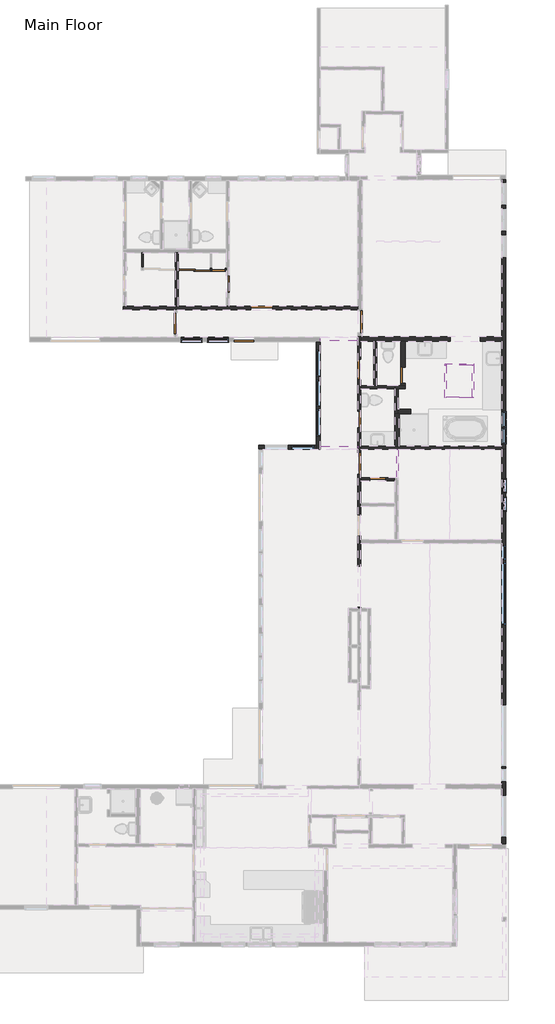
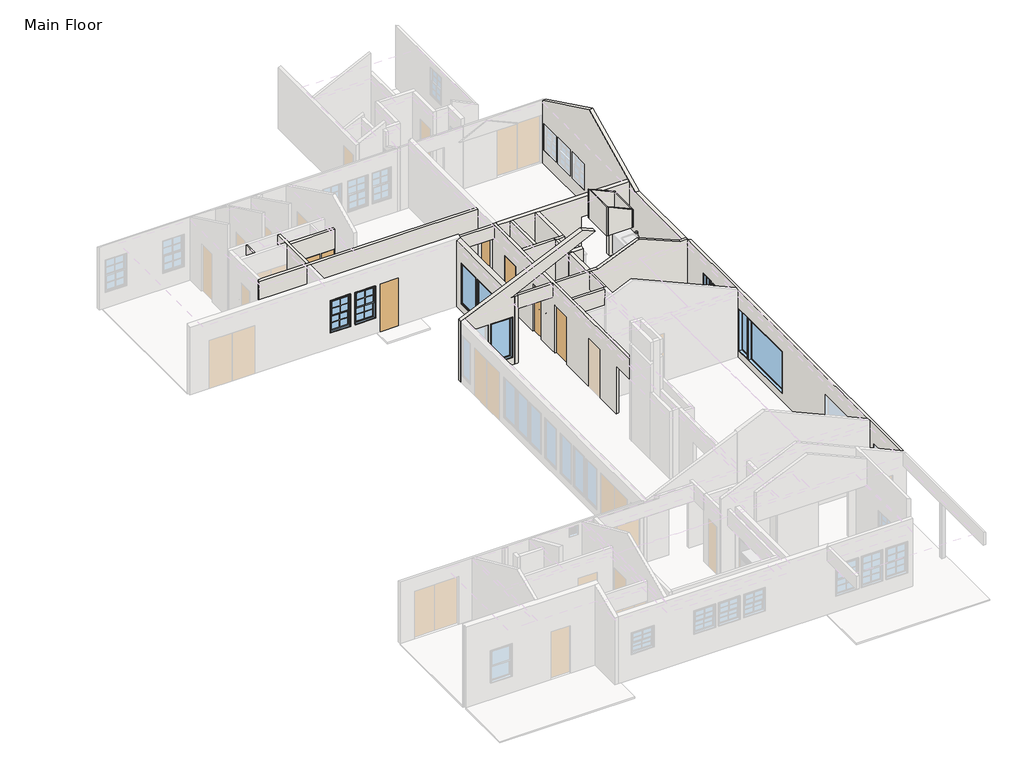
# One storey, part 4 of 7: 28 walls, 12 doors, 12 windows.
"""IFC4 building model written with IfcOpenShell, lengths in millimetres."""

from ifc_helpers import new_model, si_unit, frame, origin, origin_with_axes, place, context, project, spatial, polyline, outline, extrude, faceted_brep, transform, mapped, element, save
from components import door_46b09886, door_b2eef15f, door_38152ee4, door_aef79686, door_c73edc89, door_f61abd0f, door_662d1a84, door_2963ea5e, door_ba797397, door_69ba4edc, default_1_0ffe8a1d, default_1_ade855ad, default_1_3f986f1e, default_1_9119c667, default_1_657b135e, default_1_ac424815, default_1_07854831, default_1_82db3804

model = new_model("IFC4")

# Units and contexts
model_context = context("Model", 3, world=origin())
ifc_project = project(units=[si_unit("LENGTHUNIT", "METRE", prefix="MILLI")], contexts=[model_context])

# Site, building, storey
site = spatial("IfcSite", under=ifc_project)
building = spatial("IfcBuilding", under=site)
storey = spatial("IfcBuildingStorey", under=building, Name="Main Floor", Elevation=0.0)

# Doors
placement = place(None, origin())
door_shape = door_46b09886(model_context)
element("IfcDoor", 1, ObjectType="Planitar - Single Door_Flush Panel : 2'-8\" x 6'-8\" @45", at=placement, inside=storey, context=model_context, shape_type="MappedRepresentation", body=[
    mapped(door_shape, transform((10994.8343008, 8654.7889932, 0.0), x_axis=(0.0, -1.0, 0.0), y_axis=(1.0, 0.0, 0.0), z_axis=(0.0, 0.0, 1.0))),
])
door_2_shape = door_b2eef15f(model_context)
element("IfcDoor", 2, ObjectType="Planitar - Single Door_Flush Panel : 2'-0\" x 6'-8\" @45", at=placement, inside=storey, context=model_context, shape_type="MappedRepresentation", body=[
    mapped(door_2_shape, transform((11686.8663008, 8070.2752932, 0.0), x_axis=(-1.0, 0.0, 0.0), y_axis=(0.0, -1.0, 0.0), z_axis=(0.0, 0.0, 1.0))),
])
door_3_shape = door_38152ee4(model_context)
element("IfcDoor", 3, ObjectType="Planitar - Single Door_Flush Panel : 1'-8\" x 6'-8\"", at=placement, inside=storey, context=model_context, shape_type="MappedRepresentation", body=[
    mapped(door_3_shape, transform((5749.7343008, 15887.1252932, 0.0), x_axis=(1.0, 0.0, 0.0), y_axis=(0.0, 1.0, 0.0), z_axis=(0.0, 0.0, 1.0))),
])
door_4_shape = door_aef79686(model_context)
element("IfcDoor", 4, ObjectType="Planitar - Single Door_Flush Panel : 2'-0\" x 6'-8\"", at=placement, inside=storey, context=model_context, shape_type="MappedRepresentation", body=[
    mapped(door_4_shape, transform((6092.6343008, 15349.5738932, 0.0), x_axis=(0.0, -1.0, 0.0), y_axis=(1.0, 0.0, 0.0), z_axis=(0.0, 0.0, 1.0))),
])
door_5_shape = door_c73edc89(model_context)
element("IfcDoor", 5, ObjectType="Planitar - Single Door_Flush Panel : 2'-0\" x 6'-8\"", at=placement, inside=storey, context=model_context, shape_type="MappedRepresentation", body=[
    mapped(door_5_shape, transform((12626.7843008, 11950.0399932, 0.0), x_axis=(0.0, -1.0, 0.0), y_axis=(1.0, 0.0, 0.0), z_axis=(0.0, 0.0, 1.0))),
])
element("IfcDoor", 6, ObjectType="Planitar - Single Door_Flush Panel : 2'-0\" x 6'-8\"", at=placement, inside=storey, context=model_context, shape_type="MappedRepresentation", body=[
    mapped(door_2_shape, transform((10994.8343008, 10301.2498932, 0.0), x_axis=(0.0, 1.0, 0.0), y_axis=(-1.0, 0.0, 0.0), z_axis=(0.0, 0.0, 1.0))),
])
door_6_shape = door_f61abd0f(model_context)
element("IfcDoor", 7, ObjectType="Planitar - Single Door_Flush Panel : 2'-6\" x 6'-8\"", at=placement, inside=storey, context=model_context, shape_type="MappedRepresentation", body=[
    mapped(door_6_shape, transform((10994.8343008, 12161.0671932, 0.0), x_axis=(0.0, -1.0, 0.0), y_axis=(1.0, 0.0, 0.0), z_axis=(0.0, 0.0, 1.0))),
])
door_7_shape = door_662d1a84(model_context)
element("IfcDoor", 8, ObjectType="Planitar - Single Door_Flush Panel : 2'-6\" x 6'-8\"", at=placement, inside=storey, context=model_context, shape_type="MappedRepresentation", body=[
    mapped(door_7_shape, transform((6701.4028008, 13283.6252932, 0.0), x_axis=(1.0, 0.0, 0.0), y_axis=(0.0, 1.0, 0.0), z_axis=(0.0, 0.0, 1.0))),
])
door_8_shape = door_2963ea5e(model_context)
element("IfcDoor", 9, ObjectType="Planitar - Single Door_Flush Panel : 2'-8\" x 6'-8\"", at=placement, inside=storey, context=model_context, shape_type="MappedRepresentation", body=[
    mapped(door_8_shape, transform((11020.2343008, 13947.3496932, 0.0), x_axis=(0.0, -1.0, 0.0), y_axis=(1.0, 0.0, 0.0), z_axis=(0.0, 0.0, 1.0))),
])
door_9_shape = door_ba797397(model_context)
element("IfcDoor", 10, ObjectType="Planitar - Single Door_Flush Panel : 2'-8\" x 6'-8\"", at=placement, inside=storey, context=model_context, shape_type="MappedRepresentation", body=[
    mapped(door_9_shape, transform((7352.0824008, 14458.3752932, 0.0), x_axis=(-1.0, 0.0, 0.0), y_axis=(0.0, -1.0, 0.0), z_axis=(0.0, 0.0, 1.0))),
])
element("IfcDoor", 11, ObjectType="Planitar - Single Door_Flush Panel : 2'-8\" x 6'-8\"", at=placement, inside=storey, context=model_context, shape_type="MappedRepresentation", body=[
    mapped(door_shape, transform((4155.8843008, 13880.5110932, 0.0), x_axis=(0.0, 1.0, 0.0), y_axis=(-1.0, 0.0, 0.0), z_axis=(0.0, 0.0, 1.0))),
])
door_10_shape = door_69ba4edc(model_context)
element("IfcDoor", 12, ObjectType="Planitar - Double Sliding Door_Flush Panel : 3'-10\" x 6'-8\"", at=placement, inside=storey, context=model_context, shape_type="MappedRepresentation", body=[
    mapped(door_10_shape, transform((4848.0343008, 15883.9502932, 0.0), x_axis=(-1.0, 0.0, 0.0), y_axis=(0.0, -1.0, 0.0), z_axis=(0.0, 0.0, 1.0))),
])

# Walls
element("IfcWall", 13, ObjectType="Planitar - Generic 6\"", at=placement, inside=storey, context=model_context, shape_type="Brep", body=[
    faceted_brep([(16468.5343008, -5556.8247068, 2797.5063387), (16468.5343008, -5556.8247068, 0.0), (16468.5343008, 9187.8752932, 0.0), (16468.5343008, 9187.8752932, 2797.5063387), (16468.5343008, -3740.8519068, 558.8), (16468.5343008, -5264.8519068, 558.8), (16468.5343008, -5264.8519068, 2032.0), (16468.5343008, -3740.8519068, 2032.0), (16468.5343008, -2737.4247068, 304.8), (16468.5343008, -3194.6247068, 304.8), (16468.5343008, -3194.6247068, 2082.8), (16468.5343008, -2737.4247068, 2082.8), (16468.5343008, -353.5097068, 304.8), (16468.5343008, -2639.5097068, 304.8), (16468.5343008, -2639.5097068, 2082.8), (16468.5343008, -353.5097068, 2082.8), (16468.5343008, 4965.8078932, 304.8), (16468.5343008, 2629.0078932, 304.8), (16468.5343008, 2629.0078932, 2082.8), (16468.5343008, 4965.8078932, 2082.8), (16468.5343008, 5613.5900932, 304.8), (16468.5343008, 5054.7900932, 304.8), (16468.5343008, 5054.7900932, 2082.8), (16468.5343008, 5613.5900932, 2082.8), (16468.5343008, 7423.5477932, 2082.8), (16468.5343008, 7423.5477932, 457.2), (16468.5343008, 6864.7477932, 457.2), (16468.5343008, 6864.7477932, 2082.8), (16468.5343008, 8104.9558932, 2082.8), (16468.5343008, 8104.9558932, 457.2), (16468.5343008, 7546.1558932, 457.2), (16468.5343008, 7546.1558932, 2082.8), (16316.1343008, -5556.8247068, 0.0), (16316.1343008, -5556.8247068, 2865.3591904), (16316.1343008, -3480.3747068, 2865.3591904), (16316.1343008, -3315.2747068, 2865.3591904), (16316.1343008, 5689.0252932, 2865.3591904), (16316.1343008, 5803.3252932, 2865.3591904), (16316.1343008, 9187.8752932, 2865.3591904), (16316.1343008, 9187.8752932, 0.0), (16316.1343008, 5803.3252932, 0.0), (16316.1343008, 5689.0252932, 0.0), (16316.1343008, -3315.2747068, 0.0), (16316.1343008, -3480.3747068, 0.0), (16316.1343008, -3740.8519068, 558.8), (16316.1343008, -3740.8519068, 2032.0), (16316.1343008, -5264.8519068, 2032.0), (16316.1343008, -5264.8519068, 558.8), (16316.1343008, -2737.4247068, 304.8), (16316.1343008, -2737.4247068, 2082.8), (16316.1343008, -3194.6247068, 2082.8), (16316.1343008, -3194.6247068, 304.8), (16316.1343008, -353.5097068, 304.8), (16316.1343008, -353.5097068, 2082.8), (16316.1343008, -2639.5097068, 2082.8), (16316.1343008, -2639.5097068, 304.8), (16316.1343008, 4965.8078932, 304.8), (16316.1343008, 4965.8078932, 2082.8), (16316.1343008, 2629.0078932, 2082.8), (16316.1343008, 2629.0078932, 304.8), (16316.1343008, 5613.5900932, 304.8), (16316.1343008, 5613.5900932, 2082.8), (16316.1343008, 5054.7900932, 2082.8), (16316.1343008, 5054.7900932, 304.8), (16316.1343008, 7423.5477932, 2082.8), (16316.1343008, 6864.7477932, 2082.8), (16316.1343008, 6864.7477932, 457.2), (16316.1343008, 7423.5477932, 457.2), (16316.1343008, 8104.9558932, 2082.8), (16316.1343008, 7546.1558932, 2082.8), (16316.1343008, 7546.1558932, 457.2), (16316.1343008, 8104.9558932, 457.2)], [[[0, 1, 2, 3], [4, 5, 6, 7], [8, 9, 10, 11], [12, 13, 14, 15], [16, 17, 18, 19], [20, 21, 22, 23], [24, 25, 26, 27], [28, 29, 30, 31]], [[32, 33, 34, 35, 36, 37, 38, 39, 40, 41, 42, 43], [44, 45, 46, 47], [48, 49, 50, 51], [52, 53, 54, 55], [56, 57, 58, 59], [60, 61, 62, 63], [64, 65, 66, 67], [68, 69, 70, 71]], [[2, 1, 32, 43, 42, 41, 40, 39]], [[3, 2, 39, 38]], [[45, 44, 4, 7]], [[46, 45, 7, 6]], [[47, 46, 6, 5]], [[44, 47, 5, 4]], [[49, 48, 8, 11]], [[50, 49, 11, 10]], [[51, 50, 10, 9]], [[48, 51, 9, 8]], [[53, 52, 12, 15]], [[54, 53, 15, 14]], [[55, 54, 14, 13]], [[52, 55, 13, 12]], [[57, 56, 16, 19]], [[58, 57, 19, 18]], [[59, 58, 18, 17]], [[56, 59, 17, 16]], [[61, 60, 20, 23]], [[62, 61, 23, 22]], [[63, 62, 22, 21]], [[60, 63, 21, 20]], [[25, 24, 64, 67]], [[26, 25, 67, 66]], [[27, 26, 66, 65]], [[24, 27, 65, 64]], [[29, 28, 68, 71]], [[30, 29, 71, 70]], [[31, 30, 70, 69]], [[28, 31, 69, 68]], [[0, 3, 38, 37, 36, 35, 34, 33]], [[0, 33, 32, 1]]]),
])
element("IfcWall", 14, ObjectType="Planitar - Generic 6\"", at=placement, inside=storey, context=model_context, shape_type="Brep", body=[
    faceted_brep([(9394.6343008, 13207.4252932, 2797.5063387), (9394.6343008, 13207.4252932, 0.0), (9394.6343008, 9340.2752932, 0.0), (9394.6343008, 9187.8752932, 0.0), (9394.6343008, 9187.8752932, 2870.2), (9394.6343008, 9340.2752932, 2870.2), (9394.6343008, 9340.2752932, 2797.5063387), (9394.6343008, 11885.6646932, 304.8), (9394.6343008, 12901.6646932, 304.8), (9394.6343008, 12901.6646932, 2032.0), (9394.6343008, 11885.6646932, 2032.0), (9394.6343008, 10769.0252932, 304.8), (9394.6343008, 11785.0252932, 304.8), (9394.6343008, 11785.0252932, 2032.0), (9394.6343008, 10769.0252932, 2032.0), (9394.6343008, 9665.2009932, 304.8), (9394.6343008, 10681.2009932, 304.8), (9394.6343008, 10681.2009932, 2032.0), (9394.6343008, 9665.2009932, 2032.0), (9547.0343008, 13207.4252932, 0.0), (9547.0343008, 13207.4252932, 2862.721786), (9547.0343008, 13207.4252932, 2871.8367852), (9547.0343008, 9340.2752932, 2871.8367852), (9547.0343008, 9340.2752932, 2870.2), (9547.0343008, 9302.1752932, 2870.2), (9547.0343008, 9187.8752932, 2870.2), (9547.0343008, 9187.8752932, 2311.4), (9547.0343008, 9187.8752932, 0.0), (9547.0343008, 11885.6646932, 304.8), (9547.0343008, 11885.6646932, 2032.0), (9547.0343008, 12901.6646932, 2032.0), (9547.0343008, 12901.6646932, 304.8), (9547.0343008, 10769.0252932, 304.8), (9547.0343008, 10769.0252932, 2032.0), (9547.0343008, 11785.0252932, 2032.0), (9547.0343008, 11785.0252932, 304.8), (9547.0343008, 9665.2009932, 304.8), (9547.0343008, 9665.2009932, 2032.0), (9547.0343008, 10681.2009932, 2032.0), (9547.0343008, 10681.2009932, 304.8), (9543.6783938, 9340.2752932, 2870.2)], [[[0, 1, 2, 3, 4, 5, 6], [7, 8, 9, 10], [11, 12, 13, 14], [15, 16, 17, 18]], [[19, 20, 21, 22, 23, 24, 25, 26, 27], [28, 29, 30, 31], [32, 33, 34, 35], [36, 37, 38, 39]], [[29, 28, 7, 10]], [[30, 29, 10, 9]], [[31, 30, 9, 8]], [[28, 31, 8, 7]], [[33, 32, 11, 14]], [[34, 33, 14, 13]], [[35, 34, 13, 12]], [[32, 35, 12, 11]], [[37, 36, 15, 18]], [[38, 37, 18, 17]], [[39, 38, 17, 16]], [[36, 39, 16, 15]], [[0, 21, 20, 19, 1]], [[3, 27, 26, 25, 4]], [[3, 2, 1, 19, 27]], [[5, 4, 25, 24, 23, 40]], [[5, 40, 6]], [[0, 6, 40, 22, 21]], [[40, 23, 22]]]),
])
element("IfcWall", 15, ObjectType="Planitar - Generic 6\"", at=placement, inside=storey, context=model_context, shape_type="Brep", body=[
    faceted_brep([(9394.6343008, 9340.2752932, 0.0), (7241.9843008, 9340.2752932, 0.0), (7241.9843008, 9340.2752932, 2565.4), (12115.9189869, 9340.2752932, 4735.4155326), (12618.9940195, 9340.2752932, 4511.4320972), (9253.9695456, 9340.2752932, 2870.2), (9394.6343008, 9340.2752932, 2870.2), (9394.6343008, 9340.2752932, 2797.5063387), (8449.2426008, 9340.2752932, 304.8), (9312.8426008, 9340.2752932, 304.8), (9312.8426008, 9340.2752932, 2032.0), (8449.2426008, 9340.2752932, 2032.0), (7470.4585008, 9340.2752932, 304.8), (8334.0585008, 9340.2752932, 304.8), (8334.0585008, 9340.2752932, 2032.0), (7470.4585008, 9340.2752932, 2032.0), (9394.6343008, 9187.8752932, 0.0), (9394.6343008, 9187.8752932, 2870.2), (9253.9695456, 9187.8752932, 2870.2), (12618.9940195, 9187.8752932, 4511.4320972), (12115.9189869, 9187.8752932, 4735.4155326), (7394.3843008, 9187.8752932, 2633.2528516), (7241.9843008, 9187.8752932, 2565.4), (7241.9843008, 9187.8752932, 0.0), (7394.3843008, 9187.8752932, 0.0), (8449.2426008, 9187.8752932, 304.8), (8449.2426008, 9187.8752932, 2032.0), (9312.8426008, 9187.8752932, 2032.0), (9312.8426008, 9187.8752932, 304.8), (7470.4585008, 9187.8752932, 304.8), (7470.4585008, 9187.8752932, 2032.0), (8334.0585008, 9187.8752932, 2032.0), (8334.0585008, 9187.8752932, 304.8)], [[[0, 1, 2, 3, 4, 5, 6, 7], [8, 9, 10, 11], [12, 13, 14, 15]], [[16, 17, 18, 19, 20, 21, 22, 23, 24], [25, 26, 27, 28], [29, 30, 31, 32]], [[2, 1, 23, 22]], [[26, 25, 8, 11]], [[27, 26, 11, 10]], [[28, 27, 10, 9]], [[25, 28, 9, 8]], [[30, 29, 12, 15]], [[31, 30, 15, 14]], [[32, 31, 14, 13]], [[29, 32, 13, 12]], [[1, 0, 16, 24, 23]], [[6, 5, 18, 17]], [[3, 2, 22, 21, 20]], [[4, 3, 20, 19]], [[5, 4, 19, 18]], [[0, 7, 6, 17, 16]]]),
])
element("IfcWall", 16, ObjectType="Planitar - Generic 4 1/2\"", at=placement, inside=storey, context=model_context, shape_type="SweptSolid", body=[
    extrude(outline(polyline([(0.0, 11051.9843008), (0.0, 11382.0663008), (2032.0, 11382.0663008), (2032.0, 11991.6663008), (0.0, 11991.6663008), (0.0, 12328.3343008), (2870.2, 12328.3343008), (2870.2, 11051.9843008), (0.0, 11051.9843008)])), frame((0.0, 8013.1252932, 0.0), z_axis=(0.0, 1.0, 0.0), x_axis=(0.0, 0.0, 1.0)), (0.0, 0.0, 1.0), 114.3),
])
element("IfcWall", 17, ObjectType="Planitar - Generic 4 1/2\"", at=placement, inside=storey, context=model_context, shape_type="Brep", body=[
    faceted_brep([(11051.9843008, 9187.8752932, 0.0), (16316.1343008, 9187.8752932, 0.0), (16316.1343008, 9187.8752932, 2667.0), (16316.1343008, 9187.8752932, 2870.2), (16037.4761315, 9187.8752932, 2870.2), (14379.3843008, 9187.8752932, 3544.3094656), (12721.2924701, 9187.8752932, 2870.2), (12442.6343008, 9187.8752932, 2870.2), (12391.8343008, 9187.8752932, 2870.2), (11051.9843008, 9187.8752932, 2870.2), (11051.9843008, 9302.1752932, 0.0), (11051.9843008, 9302.1752932, 2870.2), (12328.3343008, 9302.1752932, 2870.2), (12493.4343008, 9302.1752932, 2870.2), (12721.2924701, 9302.1752932, 2870.2), (14379.3843008, 9302.1752932, 3544.3094656), (16037.4761315, 9302.1752932, 2870.2), (16316.1343008, 9302.1752932, 2870.2), (16316.1343008, 9302.1752932, 0.0), (13636.4343008, 9302.1752932, 0.0), (13585.6343008, 9302.1752932, 0.0), (12493.4343008, 9302.1752932, 0.0), (12328.3343008, 9302.1752932, 0.0)], [[[0, 1, 2, 3, 4, 5, 6, 7, 8, 9]], [[10, 11, 12, 13, 14, 15, 16, 17, 18, 19, 20, 21, 22]], [[3, 2, 1, 18, 17]], [[0, 9, 11, 10]], [[1, 0, 10, 22, 21, 20, 19, 18]], [[4, 3, 17, 16]], [[5, 4, 16, 15]], [[6, 5, 15, 14]], [[9, 8, 7, 6, 14, 13, 12, 11]]]),
])
element("IfcWall", 18, ObjectType="Planitar - Generic 4 1/2\"", at=placement, inside=storey, context=model_context, shape_type="Brep", body=[
    faceted_brep([(12328.3343008, 11448.4752932, 0.0), (12442.6343008, 11448.4752932, 0.0), (12709.3343008, 11448.4752932, 0.0), (12709.3343008, 11448.4752932, 2870.2), (12442.6343008, 11448.4752932, 2870.2), (12328.3343008, 11448.4752932, 2870.2), (12328.3343008, 11562.7752932, 0.0), (12328.3343008, 11562.7752932, 2870.2), (12544.2343008, 11562.7752932, 2870.2), (12709.3343008, 11562.7752932, 2870.2), (12709.3343008, 11562.7752932, 0.0), (12544.2343008, 11562.7752932, 0.0)], [[[0, 1, 2, 3, 4, 5]], [[6, 7, 8, 9, 10, 11]], [[2, 1, 0, 6, 11, 10]], [[5, 4, 3, 9, 8, 7]], [[0, 5, 7, 6]], [[3, 2, 10, 9]]]),
])
element("IfcWall", 19, ObjectType="Planitar - Generic 4 1/2\"", at=placement, inside=storey, context=model_context, shape_type="Brep", body=[
    faceted_brep([(12328.3343008, 11448.4752932, 0.0), (12328.3343008, 10508.6752932, 0.0), (12328.3343008, 10508.6752932, 2870.2), (12328.3343008, 11448.4752932, 2870.2), (12442.6343008, 11448.4752932, 0.0), (12442.6343008, 11448.4752932, 2870.2), (12442.6343008, 10673.7752932, 2870.2), (12442.6343008, 10508.6752932, 2870.2), (12442.6343008, 10508.6752932, 0.0), (12442.6343008, 10673.7752932, 0.0)], [[[0, 1, 2, 3]], [[4, 5, 6, 7, 8, 9]], [[1, 0, 4, 9, 8]], [[3, 2, 7, 6, 5]], [[2, 1, 8, 7]], [[0, 3, 5, 4]]]),
])
element("IfcWall", 20, ObjectType="Planitar - Generic 6 1/2\"", at=placement, inside=storey, context=model_context, shape_type="Brep", body=[
    faceted_brep([(12912.5343008, 10673.7752932, 0.0), (12442.6343008, 10673.7752932, 0.0), (12442.6343008, 10673.7752932, 2870.2), (12912.5343008, 10673.7752932, 2870.2), (12912.5343008, 10508.6752932, 0.0), (12912.5343008, 10508.6752932, 2870.2), (12493.4343008, 10508.6752932, 2870.2), (12442.6343008, 10508.6752932, 2870.2), (12442.6343008, 10508.6752932, 0.0), (12493.4343008, 10508.6752932, 0.0)], [[[0, 1, 2, 3]], [[4, 5, 6, 7, 8, 9]], [[1, 0, 4, 9, 8]], [[3, 2, 7, 6, 5]], [[0, 3, 5, 4]], [[2, 1, 8, 7]]]),
])
element("IfcWall", 21, ObjectType="Planitar - Generic 6 1/2\"", at=placement, inside=storey, context=model_context, shape_type="Brep", body=[
    faceted_brep([(12328.3343008, 10508.6752932, 0.0), (12328.3343008, 9302.1752932, 0.0), (12328.3343008, 9302.1752932, 2870.2), (12328.3343008, 10508.6752932, 2870.2), (12493.4343008, 10508.6752932, 0.0), (12493.4343008, 10508.6752932, 2870.2), (12493.4343008, 9302.1752932, 2870.2), (12493.4343008, 9302.1752932, 0.0), (12442.6343008, 10508.6752932, 0.0), (12442.6343008, 10508.6752932, 2870.2)], [[[0, 1, 2, 3]], [[4, 5, 6, 7]], [[1, 0, 8, 4, 7]], [[3, 2, 6, 5, 9]], [[0, 3, 9, 5, 4, 8]], [[2, 1, 7, 6]]]),
])
element("IfcWall", 22, ObjectType="Planitar - Generic 4 1/2\"", at=placement, inside=storey, context=model_context, shape_type="SweptSolid", body=[
    extrude(outline(polyline([(11648.8843008, 13213.7752932), (11648.8843008, 11562.7752932), (11534.5843008, 11562.7752932), (11534.5843008, 13213.7752932), (11648.8843008, 13213.7752932)])), origin_with_axes(), (0.0, 0.0, 1.0), 2870.2),
])
element("IfcWall", 23, ObjectType="Planitar - Generic 6 1/2\"", at=placement, inside=storey, context=model_context, shape_type="Brep", body=[
    faceted_brep([(15512.7978008, 13213.7752932, 2032.0), (15512.7978008, 13213.7752932, 0.0), (16316.1343008, 13213.7752932, 0.0), (16316.1343008, 13213.7752932, 2870.2), (12709.3343008, 13213.7752932, 2870.2), (12544.2343008, 13213.7752932, 2870.2), (11648.8843008, 13213.7752932, 2870.2), (11534.5843008, 13213.7752932, 2870.2), (11051.9843008, 13213.7752932, 2870.2), (11051.9843008, 13213.7752932, 0.0), (11534.5843008, 13213.7752932, 0.0), (11648.8843008, 13213.7752932, 0.0), (12544.2343008, 13213.7752932, 0.0), (12709.3343008, 13213.7752932, 0.0), (14395.1978008, 13213.7752932, 0.0), (14395.1978008, 13213.7752932, 2032.0), (16316.1343008, 13378.8752932, 0.0), (15512.7978008, 13378.8752932, 0.0), (15512.7978008, 13378.8752932, 2032.0), (14395.1978008, 13378.8752932, 2032.0), (14395.1978008, 13378.8752932, 0.0), (11102.7843008, 13378.8752932, 0.0), (11051.9843008, 13378.8752932, 0.0), (11051.9843008, 13378.8752932, 2870.2), (11102.7843008, 13378.8752932, 2870.2), (16316.1343008, 13378.8752932, 2870.2)], [[[0, 1, 2, 3, 4, 5, 6, 7, 8, 9, 10, 11, 12, 13, 14, 15]], [[16, 17, 18, 19, 20, 21, 22, 23, 24, 25]], [[2, 1, 17, 16]], [[14, 13, 12, 11, 10, 9, 22, 21, 20]], [[8, 7, 6, 5, 4, 3, 25, 24, 23]], [[3, 2, 16, 25]], [[20, 19, 15, 14]], [[18, 17, 1, 0]], [[19, 18, 0, 15]], [[8, 23, 22, 9]]]),
])
element("IfcWall", 24, ObjectType="Planitar - Generic 4 1/2\"", at=placement, inside=storey, context=model_context, shape_type="Brep", body=[
    faceted_brep([(6945.6824008, 14515.5252932, 2032.0), (6945.6824008, 14515.5252932, 0.0), (6149.7843008, 14515.5252932, 0.0), (6035.4843008, 14515.5252932, 0.0), (4244.7843008, 14515.5252932, 0.0), (4130.4843008, 14515.5252932, 0.0), (2301.6843008, 14515.5252932, 0.0), (2187.3843008, 14515.5252932, 0.0), (2187.3843008, 14515.5252932, 2870.2), (2301.6843008, 14515.5252932, 2870.2), (4130.4843008, 14515.5252932, 2870.2), (4244.7843008, 14515.5252932, 2870.2), (10937.6843008, 14515.5252932, 2870.2), (10937.6843008, 14515.5252932, 0.0), (7758.4824008, 14515.5252932, 0.0), (7758.4824008, 14515.5252932, 2032.0), (2187.3843008, 14401.2252932, 0.0), (4098.7343008, 14401.2252932, 0.0), (4213.0343008, 14401.2252932, 0.0), (6945.6824008, 14401.2252932, 0.0), (6945.6824008, 14401.2252932, 2032.0), (7758.4824008, 14401.2252932, 2032.0), (7758.4824008, 14401.2252932, 0.0), (10937.6843008, 14401.2252932, 0.0), (10937.6843008, 14401.2252932, 2870.2), (4213.0343008, 14401.2252932, 2870.2), (4098.7343008, 14401.2252932, 2870.2), (2187.3843008, 14401.2252932, 2870.2)], [[[0, 1, 2, 3, 4, 5, 6, 7, 8, 9, 10, 11, 12, 13, 14, 15]], [[16, 17, 18, 19, 20, 21, 22, 23, 24, 25, 26, 27]], [[14, 13, 23, 22]], [[7, 6, 5, 4, 3, 2, 1, 19, 18, 17, 16]], [[12, 11, 10, 9, 8, 27, 26, 25, 24]], [[13, 12, 24, 23]], [[8, 7, 16, 27]], [[20, 19, 1, 0]], [[21, 20, 0, 15]], [[22, 21, 15, 14]]]),
])
element("IfcWall", 25, ObjectType="Planitar - Generic 4 1/2\"", at=placement, inside=storey, context=model_context, shape_type="Brep", body=[
    faceted_brep([(4130.4843008, 16528.4752932, 0.0), (4130.4843008, 14515.5252932, 0.0), (4130.4843008, 14515.5252932, 2870.2), (4130.4843008, 15868.0752932, 2870.2), (4130.4843008, 15982.3752932, 2870.2), (4130.4843008, 16528.4752932, 2870.2), (4244.7843008, 16528.4752932, 0.0), (4244.7843008, 16528.4752932, 2870.2), (4244.7843008, 15944.2752932, 2870.2), (4244.7843008, 15829.9752932, 2870.2), (4244.7843008, 14515.5252932, 2870.2), (4244.7843008, 14515.5252932, 0.0), (4244.7843008, 15829.9752932, 0.0), (4244.7843008, 15944.2752932, 0.0)], [[[0, 1, 2, 3, 4, 5]], [[6, 7, 8, 9, 10, 11, 12, 13]], [[1, 0, 6, 13, 12, 11]], [[5, 4, 3, 2, 10, 9, 8, 7]], [[2, 1, 11, 10]], [[0, 5, 7, 6]]]),
])
element("IfcWall", 26, ObjectType="Planitar - Generic 6 1/2\"", at=placement, inside=storey, context=model_context, shape_type="SweptSolid", body=[
    extrude(outline(polyline([(11645.2399932, 2032.0), (11645.2399932, 0.0), (11562.7752932, 0.0), (11562.7752932, 2870.2), (13213.7752932, 2870.2), (13213.7752932, 0.0), (12254.8399932, 0.0), (12254.8399932, 2032.0), (11645.2399932, 2032.0)])), frame((12544.2343008, 0.0, 0.0), z_axis=(1.0, 0.0, 0.0), x_axis=(0.0, 1.0, 0.0)), (0.0, 0.0, 1.0), 165.1),
])
element("IfcWall", 27, ObjectType="Planitar - Generic 4 1/2\"", at=placement, inside=storey, context=model_context, shape_type="Brep", body=[
    faceted_brep([(11051.9843008, 11448.4752932, 0.0), (12328.3343008, 11448.4752932, 0.0), (12328.3343008, 11448.4752932, 2870.2), (11051.9843008, 11448.4752932, 2870.2), (11051.9843008, 11562.7752932, 0.0), (11051.9843008, 11562.7752932, 2870.2), (11534.5843008, 11562.7752932, 2870.2), (11648.8843008, 11562.7752932, 2870.2), (12328.3343008, 11562.7752932, 2870.2), (12328.3343008, 11562.7752932, 0.0), (11648.8843008, 11562.7752932, 0.0), (11534.5843008, 11562.7752932, 0.0)], [[[0, 1, 2, 3]], [[4, 5, 6, 7, 8, 9, 10, 11]], [[1, 0, 4, 11, 10, 9]], [[2, 1, 9, 8]], [[3, 2, 8, 7, 6, 5]], [[0, 3, 5, 4]]]),
])
element("IfcWall", 28, ObjectType="Planitar - Generic 4 1/2\"", at=placement, inside=storey, context=model_context, shape_type="SweptSolid", body=[
    extrude(outline(polyline([(10937.6843008, 13245.5252932), (9547.0343008, 13245.5252932), (9547.0343008, 13359.8252932), (10937.6843008, 13359.8252932), (10937.6843008, 13245.5252932)])), frame((0.0, 0.0, 2311.4), z_axis=(0.0, 0.0, 1.0), x_axis=(1.0, 0.0, 0.0)), (0.0, 0.0, 1.0), 558.8),
])
element("IfcWall", 29, ObjectType="Planitar - Generic 4 1/2\"", at=placement, inside=storey, context=model_context, shape_type="SweptSolid", body=[
    extrude(outline(polyline([(10937.6843008, 9187.8752932), (9547.0343008, 9187.8752932), (9547.0343008, 9302.1752932), (10937.6843008, 9302.1752932), (10937.6843008, 9187.8752932)])), frame((0.0, 0.0, 2311.4), z_axis=(0.0, 0.0, 1.0), x_axis=(1.0, 0.0, 0.0)), (0.0, 0.0, 1.0), 558.8),
])
element("IfcWall", 30, ObjectType="Planitar - Generic 6\"", at=placement, inside=storey, context=model_context, shape_type="Brep", body=[
    faceted_brep([(16468.5343008, 9187.8752932, 0.0), (16468.5343008, 19252.6252932, 0.0), (16468.5343008, 19252.6252932, 2645.9246504), (16468.5343008, 16007.7752932, 4228.5437404), (16468.5343008, 12806.1361635, 2667.0), (16468.5343008, 9187.8752932, 2667.0), (16468.5343008, 10598.1706057, 1981.2), (16468.5343008, 10598.1706057, 965.2), (16468.5343008, 9378.9706057, 965.2), (16468.5343008, 9378.9706057, 1981.2), (16468.5343008, 19151.0486932, 1727.2), (16468.5343008, 19151.0486932, 609.6), (16468.5343008, 18287.4486932, 609.6), (16468.5343008, 18287.4486932, 1727.2), (16468.5343008, 18187.4723932, 1727.2), (16468.5343008, 18187.4723932, 609.6), (16468.5343008, 17323.8723932, 609.6), (16468.5343008, 17323.8723932, 1727.2), (16468.5343008, 17194.9001932, 1727.2), (16468.5343008, 17194.9001932, 609.6), (16468.5343008, 16331.3001932, 609.6), (16468.5343008, 16331.3001932, 1727.2), (16316.1343008, 19252.6252932, 0.0), (16316.1343008, 13378.8752932, 0.0), (16316.1343008, 13213.7752932, 0.0), (16316.1343008, 10673.7752932, 0.0), (16316.1343008, 10622.9752932, 0.0), (16316.1343008, 9302.1752932, 0.0), (16316.1343008, 9187.8752932, 0.0), (16316.1343008, 9187.8752932, 2667.0), (16316.1343008, 12806.1361635, 2667.0), (16316.1343008, 16007.7752932, 4228.5437404), (16316.1343008, 19252.6252932, 2645.9246504), (16316.1343008, 10598.1706057, 965.2), (16316.1343008, 10598.1706057, 1981.2), (16316.1343008, 9378.9706057, 1981.2), (16316.1343008, 9378.9706057, 965.2), (16316.1343008, 19151.0486932, 609.6), (16316.1343008, 19151.0486932, 1727.2), (16316.1343008, 18287.4486932, 1727.2), (16316.1343008, 18287.4486932, 609.6), (16316.1343008, 18187.4723932, 609.6), (16316.1343008, 18187.4723932, 1727.2), (16316.1343008, 17323.8723932, 1727.2), (16316.1343008, 17323.8723932, 609.6), (16316.1343008, 17194.9001932, 609.6), (16316.1343008, 17194.9001932, 1727.2), (16316.1343008, 16331.3001932, 1727.2), (16316.1343008, 16331.3001932, 609.6)], [[[0, 1, 2, 3, 4, 5], [6, 7, 8, 9], [10, 11, 12, 13], [14, 15, 16, 17], [18, 19, 20, 21]], [[22, 23, 24, 25, 26, 27, 28, 29, 30, 31, 32], [33, 34, 35, 36], [37, 38, 39, 40], [41, 42, 43, 44], [45, 46, 47, 48]], [[6, 34, 33, 7]], [[0, 5, 29, 28]], [[35, 9, 8, 36]], [[7, 33, 36, 8]], [[34, 6, 9, 35]], [[10, 38, 37, 11]], [[11, 37, 40, 12]], [[12, 40, 39, 13]], [[38, 10, 13, 39]], [[14, 42, 41, 15]], [[15, 41, 44, 16]], [[16, 44, 43, 17]], [[42, 14, 17, 43]], [[18, 46, 45, 19]], [[19, 45, 48, 20]], [[20, 48, 47, 21]], [[46, 18, 21, 47]], [[1, 0, 28, 27, 26, 25, 24, 23, 22]], [[5, 4, 30, 29]], [[3, 2, 32, 31]], [[4, 3, 31, 30]], [[2, 1, 22, 32]]]),
])
element("IfcWall", 31, ObjectType="Planitar - Generic 4 1/2\"", at=placement, inside=storey, context=model_context, shape_type="Brep", body=[
    faceted_brep([(6035.4843008, 15829.9752932, 2870.2), (4244.7843008, 15829.9752932, 2870.2), (4244.7843008, 15829.9752932, 0.0), (4263.8343008, 15829.9752932, 0.0), (4263.8343008, 15829.9752932, 2032.0), (5432.2343008, 15829.9752932, 2032.0), (5432.2343008, 15829.9752932, 0.0), (5495.7343008, 15829.9752932, 0.0), (5495.7343008, 15829.9752932, 2032.0), (6003.7343008, 15829.9752932, 2032.0), (6003.7343008, 15829.9752932, 0.0), (6035.4843008, 15829.9752932, 0.0), (4244.7843008, 15944.2752932, 2870.2), (5432.2343008, 15944.2752932, 2870.2), (5483.0343008, 15944.2752932, 2870.2), (6035.4843008, 15944.2752932, 2870.2), (6035.4843008, 15944.2752932, 0.0), (6003.7343008, 15944.2752932, 0.0), (6003.7343008, 15944.2752932, 2032.0), (5495.7343008, 15944.2752932, 2032.0), (5495.7343008, 15944.2752932, 0.0), (5483.0343008, 15944.2752932, 0.0), (5432.2343008, 15944.2752932, 0.0), (5432.2343008, 15944.2752932, 2032.0), (4263.8343008, 15944.2752932, 2032.0), (4263.8343008, 15944.2752932, 0.0), (4244.7843008, 15944.2752932, 0.0)], [[[0, 1, 2, 3, 4, 5, 6, 7, 8, 9, 10, 11]], [[12, 13, 14, 15, 16, 17, 18, 19, 20, 21, 22, 23, 24, 25, 26]], [[2, 26, 25, 3]], [[16, 11, 10, 17]], [[20, 7, 6, 22, 21]], [[1, 0, 15, 14, 13, 12]], [[2, 1, 12, 26]], [[0, 11, 16, 15]], [[18, 17, 10, 9]], [[19, 18, 9, 8]], [[20, 19, 8, 7]], [[24, 4, 3, 25]], [[4, 24, 23, 5]], [[5, 23, 22, 6]]]),
])
element("IfcWall", 32, ObjectType="Planitar - Generic 4 1/2\"", at=placement, inside=storey, context=model_context, shape_type="Brep", body=[
    faceted_brep([(11051.9843008, 4826.9625932, 2032.0), (11051.9843008, 4826.9625932, 0.0), (11051.9843008, 5689.0252932, 0.0), (11051.9843008, 5803.3252932, 0.0), (11051.9843008, 5962.4467932, 0.0), (11051.9843008, 5962.4467932, 2032.0), (11051.9843008, 6724.4467932, 2032.0), (11051.9843008, 6724.4467932, 0.0), (11051.9843008, 7060.6252932, 0.0), (11051.9843008, 7174.9252932, 0.0), (11051.9843008, 8013.1252932, 0.0), (11051.9843008, 8127.4252932, 0.0), (11051.9843008, 8248.3889932, 0.0), (11051.9843008, 8248.3889932, 2032.0), (11051.9843008, 9061.1889932, 2032.0), (11051.9843008, 9061.1889932, 0.0), (11051.9843008, 9187.8752932, 0.0), (11051.9843008, 9302.1752932, 0.0), (11051.9843008, 9996.4498932, 0.0), (11051.9843008, 9996.4498932, 2032.0), (11051.9843008, 10606.0498932, 2032.0), (11051.9843008, 10606.0498932, 0.0), (11051.9843008, 11448.4752932, 0.0), (11051.9843008, 11562.7752932, 0.0), (11051.9843008, 11780.0671932, 0.0), (11051.9843008, 11780.0671932, 2032.0), (11051.9843008, 12542.0671932, 2032.0), (11051.9843008, 12542.0671932, 0.0), (11051.9843008, 13213.7752932, 0.0), (11051.9843008, 13378.8752932, 0.0), (11051.9843008, 13378.8752932, 2870.2), (11051.9843008, 13213.7752932, 2870.2), (11051.9843008, 11562.7752932, 2870.2), (11051.9843008, 11448.4752932, 2870.2), (11051.9843008, 9302.1752932, 2870.2), (11051.9843008, 9187.8752932, 2870.2), (11051.9843008, 8127.4252932, 2870.2), (11051.9843008, 8013.1252932, 2870.2), (11051.9843008, 7174.9252932, 2870.2), (11051.9843008, 7060.6252932, 2870.2), (11051.9843008, 3250.6252932, 2870.2), (11051.9843008, 3250.6252932, 0.0), (11051.9843008, 3302.9625932, 0.0), (11051.9843008, 3302.9625932, 2032.0), (10937.6843008, 5962.4467932, 0.0), (10937.6843008, 4826.9625932, 0.0), (10937.6843008, 4826.9625932, 2032.0), (10937.6843008, 3302.9625932, 2032.0), (10937.6843008, 3302.9625932, 0.0), (10937.6843008, 3250.6252932, 0.0), (10937.6843008, 3250.6252932, 2870.2), (10937.6843008, 9187.8752932, 2870.2), (10937.6843008, 9302.1752932, 2870.2), (10937.6843008, 13245.5252932, 2870.2), (10937.6843008, 13359.8252932, 2870.2), (10937.6843008, 13378.8752932, 2870.2), (10937.6843008, 13378.8752932, 0.0), (10937.6843008, 12542.0671932, 0.0), (10937.6843008, 12542.0671932, 2032.0), (10937.6843008, 11780.0671932, 2032.0), (10937.6843008, 11780.0671932, 0.0), (10937.6843008, 10606.0498932, 0.0), (10937.6843008, 10606.0498932, 2032.0), (10937.6843008, 9996.4498932, 2032.0), (10937.6843008, 9996.4498932, 0.0), (10937.6843008, 9061.1889932, 0.0), (10937.6843008, 9061.1889932, 2032.0), (10937.6843008, 8248.3889932, 2032.0), (10937.6843008, 8248.3889932, 0.0), (10937.6843008, 6724.4467932, 0.0), (10937.6843008, 6724.4467932, 2032.0), (10937.6843008, 5962.4467932, 2032.0)], [[[0, 1, 2, 3, 4, 5, 6, 7, 8, 9, 10, 11, 12, 13, 14, 15, 16, 17, 18, 19, 20, 21, 22, 23, 24, 25, 26, 27, 28, 29, 30, 31, 32, 33, 34, 35, 36, 37, 38, 39, 40, 41, 42, 43]], [[44, 45, 46, 47, 48, 49, 50, 51, 52, 53, 54, 55, 56, 57, 58, 59, 60, 61, 62, 63, 64, 65, 66, 67, 68, 69, 70, 71]], [[57, 56, 29, 28, 27]], [[24, 23, 22, 21, 61, 60]], [[65, 64, 18, 17, 16, 15]], [[42, 41, 49, 48]], [[4, 3, 2, 1, 45, 44]], [[12, 11, 10, 9, 8, 7, 69, 68]], [[40, 39, 38, 37, 36, 35, 34, 33, 32, 31, 30, 55, 54, 53, 52, 51, 50]], [[41, 40, 50, 49]], [[29, 56, 55, 30]], [[27, 26, 58, 57]], [[26, 25, 59, 58]], [[25, 24, 60, 59]], [[64, 63, 19, 18]], [[63, 62, 20, 19]], [[62, 61, 21, 20]], [[15, 14, 66, 65]], [[14, 13, 67, 66]], [[13, 12, 68, 67]], [[44, 71, 5, 4]], [[71, 70, 6, 5]], [[70, 69, 7, 6]], [[47, 46, 0, 43]], [[46, 45, 1, 0]], [[48, 47, 43, 42]]]),
])
element("IfcWall", 33, ObjectType="Planitar - Generic 2\"", at=placement, inside=storey, context=model_context, shape_type="SweptSolid", body=[
    extrude(outline(polyline([(2930.3343008, 16528.4752932), (2930.3343008, 15982.3752932), (2879.5343008, 15982.3752932), (2879.5343008, 16528.4752932), (2930.3343008, 16528.4752932)])), origin_with_axes(), (0.0, 0.0, 1.0), 2870.2),
])
element("IfcWall", 34, ObjectType="Planitar - Generic 2\"", at=placement, inside=storey, context=model_context, shape_type="Brep", body=[
    faceted_brep([(13636.4343008, 9302.1752932, 0.0), (13636.4343008, 10622.9752932, 0.0), (13636.4343008, 10673.7752932, 0.0), (13636.4343008, 10673.7752932, 460.0), (13636.4343008, 10622.9752932, 460.0), (13636.4343008, 9302.1752932, 460.0), (13585.6343008, 9302.1752932, 0.0), (13585.6343008, 9302.1752932, 460.0), (13585.6343008, 10673.7752932, 460.0), (13585.6343008, 10673.7752932, 0.0)], [[[0, 1, 2, 3, 4, 5]], [[6, 7, 8, 9]], [[2, 1, 0, 6, 9]], [[5, 4, 3, 8, 7]], [[0, 5, 7, 6]], [[3, 2, 9, 8]]]),
])
element("IfcWall", 35, ObjectType="Planitar - Generic 2\"", at=placement, inside=storey, context=model_context, shape_type="SweptSolid", body=[
    extrude(outline(polyline([(16316.1343008, 10622.9752932), (13636.4343008, 10622.9752932), (13636.4343008, 10673.7752932), (16316.1343008, 10673.7752932), (16316.1343008, 10622.9752932)])), origin_with_axes(), (0.0, 0.0, 1.0), 460.0),
])
element("IfcWall", 36, ObjectType="Planitar - Generic 2\"", at=placement, inside=storey, context=model_context, shape_type="SweptSolid", body=[
    extrude(outline(polyline([(12442.6343008, 9187.8752932), (12442.6343008, 8127.4252932), (12391.8343008, 8127.4252932), (12391.8343008, 9187.8752932), (12442.6343008, 9187.8752932)])), frame((0.0, 0.0, 2133.6), z_axis=(0.0, 0.0, 1.0), x_axis=(1.0, 0.0, 0.0)), (0.0, 0.0, 1.0), 736.6),
])
element("IfcWall", 37, ObjectType="Planitar - Generic 2\"", at=placement, inside=storey, context=model_context, shape_type="Brep", body=[
    faceted_brep([(14192.3168228, 12324.7752932, 2590.8), (14243.1168228, 12324.7752932, 2590.8), (15208.3168228, 12324.7752932, 2590.8), (15259.1168228, 12324.7752932, 2590.8), (15259.1168228, 12324.7752932, 3335.9736924), (15208.3168228, 12324.7752932, 3358.5913096), (15204.7975461, 12324.7752932, 3360.1581926), (14253.4313065, 12324.7752932, 3783.7337327), (14243.1168228, 12324.7752932, 3788.3260367), (14192.3168228, 12324.7752932, 3810.9436539), (14192.3168228, 12375.5752932, 2590.8), (14192.3168228, 12375.5752932, 3810.9436539), (15259.1168228, 12375.5752932, 3335.9736924), (15259.1168228, 12375.5752932, 2590.8)], [[[0, 1, 2, 3, 4, 5, 6, 7, 8, 9]], [[10, 11, 12, 13]], [[3, 2, 1, 0, 10, 13]], [[4, 3, 13, 12]], [[0, 9, 11, 10]], [[9, 8, 7, 6, 5, 4, 12, 11]]]),
])
element("IfcWall", 38, ObjectType="Planitar - Generic 2\"", at=placement, inside=storey, context=model_context, shape_type="Brep", body=[
    faceted_brep([(15208.3168228, 12324.7752932, 2590.8), (15208.3168228, 11156.3752932, 2590.8), (15208.3168228, 11105.5752932, 2590.8), (15208.3168228, 11105.5752932, 3358.5913096), (15208.3168228, 11156.3752932, 3358.5913096), (15208.3168228, 12324.7752932, 3358.5913096), (15259.1168228, 12324.7752932, 2590.8), (15259.1168228, 12324.7752932, 3335.9736924), (15259.1168228, 11105.5752932, 3335.9736924), (15259.1168228, 11105.5752932, 2590.8)], [[[0, 1, 2, 3, 4, 5]], [[6, 7, 8, 9]], [[2, 1, 0, 6, 9]], [[0, 5, 7, 6]], [[3, 2, 9, 8]], [[5, 4, 3, 8, 7]]]),
])
element("IfcWall", 39, ObjectType="Planitar - Generic 2\"", at=placement, inside=storey, context=model_context, shape_type="Brep", body=[
    faceted_brep([(14243.1168228, 11105.5752932, 2590.8), (14243.1168228, 11156.3752932, 2590.8), (14243.1168228, 12324.7752932, 2590.8), (14243.1168228, 12324.7752932, 3788.3260367), (14243.1168228, 11156.3752932, 3788.3260367), (14243.1168228, 11105.5752932, 3788.3260367), (14192.3168228, 11105.5752932, 2590.8), (14192.3168228, 11105.5752932, 3810.9436539), (14192.3168228, 12324.7752932, 3810.9436539), (14192.3168228, 12324.7752932, 2590.8)], [[[0, 1, 2, 3, 4, 5]], [[6, 7, 8, 9]], [[2, 1, 0, 6, 9]], [[3, 2, 9, 8]], [[0, 5, 7, 6]], [[5, 4, 3, 8, 7]]]),
])
element("IfcWall", 40, ObjectType="Planitar - Generic 2\"", at=placement, inside=storey, context=model_context, shape_type="Brep", body=[
    faceted_brep([(14243.1168228, 11105.5752932, 2590.8), (15208.3168228, 11105.5752932, 2590.8), (15208.3168228, 11105.5752932, 3358.5913096), (14243.1168228, 11105.5752932, 3788.3260367), (14243.1168228, 11156.3752932, 2590.8), (14243.1168228, 11156.3752932, 3788.3260367), (14253.4313065, 11156.3752932, 3783.7337327), (15204.7975461, 11156.3752932, 3360.1581926), (15208.3168228, 11156.3752932, 3358.5913096), (15208.3168228, 11156.3752932, 2590.8)], [[[0, 1, 2, 3]], [[4, 5, 6, 7, 8, 9]], [[1, 0, 4, 9]], [[2, 1, 9, 8]], [[0, 3, 5, 4]], [[3, 2, 8, 7, 6, 5]]]),
])

# Windows
default_1_shape = default_1_0ffe8a1d(model_context)
element("IfcWindow", 41, ObjectType="Planitar-Double-Hung-Single : Default 1", at=placement, inside=storey, context=model_context, shape_type="MappedRepresentation", body=[
    mapped(default_1_shape, transform((4737.2598008, 13283.6252932, -254.0), x_axis=(-1.0, 0.0, 0.0), y_axis=(0.0, -1.0, 0.0), z_axis=(0.0, 0.0, 1.0))),
])
element("IfcWindow", 42, ObjectType="Planitar-Double-Hung-Single : Default 1", at=placement, inside=storey, context=model_context, shape_type="MappedRepresentation", body=[
    mapped(default_1_shape, transform((5727.7196008, 13283.6252932, -254.0), x_axis=(-1.0, 0.0, 0.0), y_axis=(0.0, -1.0, 0.0), z_axis=(0.0, 0.0, 1.0))),
])
default_1_2_shape = default_1_ade855ad(model_context)
element("IfcWindow", 43, ObjectType="Planitar-Fixed : Default 1", at=placement, inside=storey, context=model_context, shape_type="MappedRepresentation", body=[
    mapped(default_1_2_shape, transform((9483.8343008, 12393.6646932, -609.6), x_axis=(0.0, 1.0, 0.0), y_axis=(-1.0, 0.0, 0.0), z_axis=(0.0, 0.0, 1.0))),
])
element("IfcWindow", 44, ObjectType="Planitar-Fixed : Default 1", at=placement, inside=storey, context=model_context, shape_type="MappedRepresentation", body=[
    mapped(default_1_2_shape, transform((9483.8343008, 11277.0252932, -609.6), x_axis=(0.0, 1.0, 0.0), y_axis=(-1.0, 0.0, 0.0), z_axis=(0.0, 0.0, 1.0))),
])
element("IfcWindow", 45, ObjectType="Planitar-Fixed : Default 1", at=placement, inside=storey, context=model_context, shape_type="MappedRepresentation", body=[
    mapped(default_1_2_shape, transform((9483.8343008, 10173.2009932, -609.6), x_axis=(0.0, 1.0, 0.0), y_axis=(-1.0, 0.0, 0.0), z_axis=(0.0, 0.0, 1.0))),
])
default_1_3_shape = default_1_3f986f1e(model_context)
element("IfcWindow", 46, ObjectType="Planitar-Fixed : Default 1", at=placement, inside=storey, context=model_context, shape_type="MappedRepresentation", body=[
    mapped(default_1_3_shape, transform((8881.0426008, 9251.0752932, -609.6), x_axis=(1.0, 0.0, 0.0), y_axis=(0.0, 1.0, 0.0), z_axis=(0.0, 0.0, 1.0))),
])
default_1_4_shape = default_1_9119c667(model_context)
element("IfcWindow", 47, ObjectType="Planitar-Fixed : Default 1", at=placement, inside=storey, context=model_context, shape_type="MappedRepresentation", body=[
    mapped(default_1_4_shape, transform((16379.3343008, 5334.1900932, -609.6), x_axis=(0.0, -1.0, 0.0), y_axis=(1.0, 0.0, 0.0), z_axis=(0.0, 0.0, 1.0))),
])
default_1_5_shape = default_1_657b135e(model_context)
element("IfcWindow", 48, ObjectType="Planitar-Fixed : Default 1", at=placement, inside=storey, context=model_context, shape_type="MappedRepresentation", body=[
    mapped(default_1_5_shape, transform((16379.3343008, 3797.4078932, -609.6), x_axis=(0.0, -1.0, 0.0), y_axis=(1.0, 0.0, 0.0), z_axis=(0.0, 0.0, 1.0))),
])
default_1_6_shape = default_1_ac424815(model_context)
element("IfcWindow", 49, ObjectType="Planitar-Double-Hung-Single : Default 1", at=placement, inside=storey, context=model_context, shape_type="MappedRepresentation", body=[
    mapped(default_1_6_shape, transform((16392.3343008, 7144.1477932, -457.2), x_axis=(0.0, -1.0, 0.0), y_axis=(1.0, 0.0, 0.0), z_axis=(0.0, 0.0, 1.0))),
])
element("IfcWindow", 50, ObjectType="Planitar-Double-Hung-Single : Default 1", at=placement, inside=storey, context=model_context, shape_type="MappedRepresentation", body=[
    mapped(default_1_6_shape, transform((16392.3343008, 7825.5558932, -457.2), x_axis=(0.0, -1.0, 0.0), y_axis=(1.0, 0.0, 0.0), z_axis=(0.0, 0.0, 1.0))),
])
default_1_7_shape = default_1_07854831(model_context)
element("IfcWindow", 51, ObjectType="Planitar-Casement-Single_Left : Default 1", at=placement, inside=storey, context=model_context, shape_type="MappedRepresentation", body=[
    mapped(default_1_7_shape, transform((16392.3343008, 10293.3706057, 50.8), x_axis=(0.0, 1.0, 0.0), y_axis=(-1.0, 0.0, 0.0), z_axis=(0.0, 0.0, 1.0))),
])
default_1_8_shape = default_1_82db3804(model_context)
element("IfcWindow", 52, ObjectType="Planitar-Casement-Single_Left : Default 1", at=placement, inside=storey, context=model_context, shape_type="MappedRepresentation", body=[
    mapped(default_1_8_shape, transform((16392.3343008, 9683.7706057, 50.8), x_axis=(0.0, -1.0, 0.0), y_axis=(1.0, 0.0, 0.0), z_axis=(0.0, 0.0, 1.0))),
])

save(model, "model.ifc")
